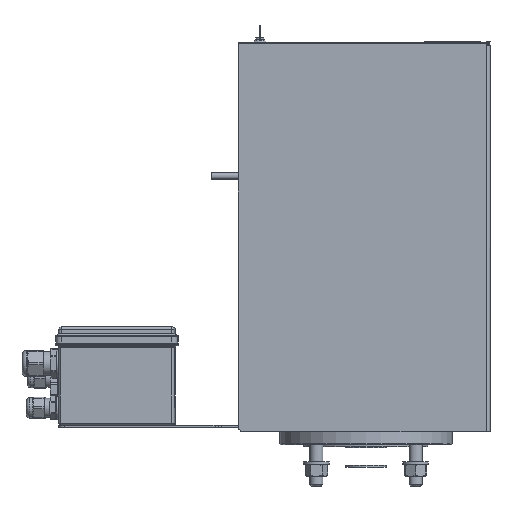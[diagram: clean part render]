
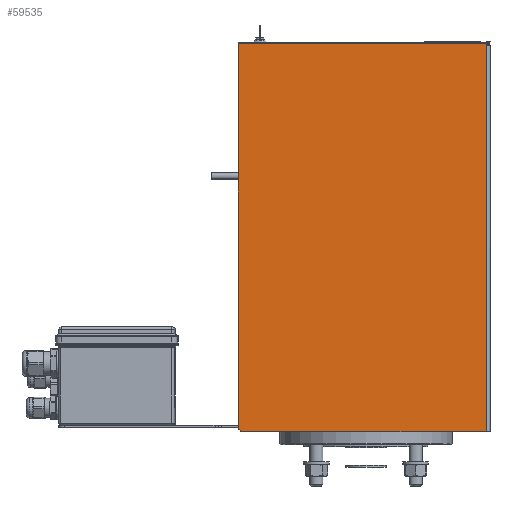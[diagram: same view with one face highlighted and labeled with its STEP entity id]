
A CAD part, front view. The second image highlights one B-rep face of the part: STEP entity #59535.
In plain terms, the highlighted planar face has unit normal (0, -1, 0) as drawn and (1, 0, 0) by its records, which use the part's own axes.
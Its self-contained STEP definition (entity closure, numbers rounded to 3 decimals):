
#4600=LINE('',#86872,#9679);
#4612=LINE('',#86909,#9691);
#4614=LINE('',#86913,#9693);
#4618=LINE('',#86923,#9697);
#9679=VECTOR('',#72061,1000.);
#9691=VECTOR('',#72091,1000.);
#9693=VECTOR('',#72095,1000.);
#9697=VECTOR('',#72107,1000.);
#15746=ORIENTED_EDGE('',*,*,#32516,.F.);
#15747=ORIENTED_EDGE('',*,*,#32523,.T.);
#15748=ORIENTED_EDGE('',*,*,#32498,.F.);
#15749=ORIENTED_EDGE('',*,*,#32524,.T.);
#15750=ORIENTED_EDGE('',*,*,#32518,.T.);
#32498=EDGE_CURVE('',#41008,#41009,#4600,.F.);
#32516=EDGE_CURVE('',#41024,#41025,#4612,.F.);
#32518=EDGE_CURVE('',#41026,#41025,#4614,.F.);
#32523=EDGE_CURVE('',#41024,#41009,#46649,.F.);
#32524=EDGE_CURVE('',#41008,#41026,#4618,.F.);
#41008=VERTEX_POINT('',#86871);
#41009=VERTEX_POINT('',#86873);
#41024=VERTEX_POINT('',#86908);
#41025=VERTEX_POINT('',#86910);
#41026=VERTEX_POINT('',#86914);
#46649=CIRCLE('',#66299,5.);
#48501=EDGE_LOOP('',(#15746,#15747,#15748,#15749,#15750));
#53116=FACE_BOUND('',#48501,.T.);
#57424=PLANE('',#66298);
#59535=ADVANCED_FACE('',(#53116),#57424,.F.);
#66298=AXIS2_PLACEMENT_3D('',#86921,#72103,#72104);
#66299=AXIS2_PLACEMENT_3D('',#86922,#72105,#72106);
#72061=DIRECTION('',(0.,0.,1.));
#72091=DIRECTION('',(0.,1.,0.));
#72095=DIRECTION('',(0.,0.,1.));
#72103=DIRECTION('',(-1.,0.,0.));
#72104=DIRECTION('',(0.,0.,1.));
#72105=DIRECTION('',(-1.,0.,0.));
#72106=DIRECTION('',(0.,0.,1.));
#72107=DIRECTION('',(0.,1.,0.));
#86871=CARTESIAN_POINT('',(89.,360.,-3.5));
#86872=CARTESIAN_POINT('',(89.,360.,-1.5));
#86873=CARTESIAN_POINT('',(89.,360.,-228.5));
#86908=CARTESIAN_POINT('',(89.,355.,-233.5));
#86909=CARTESIAN_POINT('',(89.,360.,-233.5));
#86910=CARTESIAN_POINT('',(89.,0.003,-233.5));
#86913=CARTESIAN_POINT('',(89.,0.003,-1.5));
#86914=CARTESIAN_POINT('',(89.,0.003,-3.5));
#86921=CARTESIAN_POINT('',(89.,360.,-1.5));
#86922=CARTESIAN_POINT('',(89.,355.,-228.5));
#86923=CARTESIAN_POINT('',(89.,360.,-3.5));
